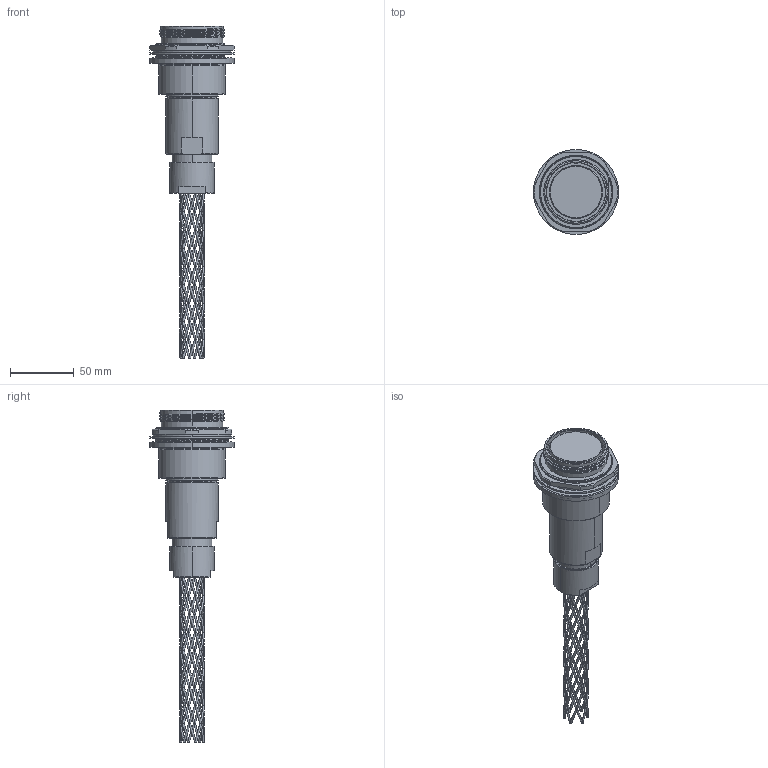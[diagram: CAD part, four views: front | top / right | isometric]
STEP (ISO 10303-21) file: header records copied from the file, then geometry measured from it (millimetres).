
FILE_DESCRIPTION (( 'STEP AP214' ), '1' );
FILE_NAME ('QLINK-RTJX-31XX-GXXX.STEP', '2025-09-30T22:49:40', ( '' ), ( '' ), 'SwSTEP 2.0', 'SolidWorks 2024', '' );
FILE_SCHEMA (( 'AUTOMOTIVE_DESIGN' ));
Products named in the file (1): QLINK-RTJX-31XX-GXXX
Bounding box: 66.42 x 66.42 x 259.47 mm (x, y, z)
Volume: 209538 mm3; surface area: 47101.9 mm2
Topology: 2 solids, 2 shells, 440 faces, 1233 edges, 704 vertices
Faces by surface type: bspline 248, cylinder 82, plane 51, cone 37, torus 22
Entity records: 117630 total; most frequent: CARTESIAN_POINT 109229, ORIENTED_EDGE 2464, EDGE_CURVE 1232, DIRECTION 1060, VERTEX_POINT 704, EDGE_LOOP 464, AXIS2_PLACEMENT_3D 452, FACE_OUTER_BOUND 440
